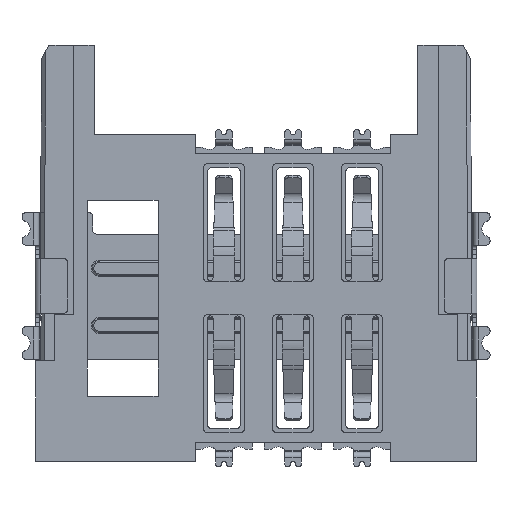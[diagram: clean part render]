
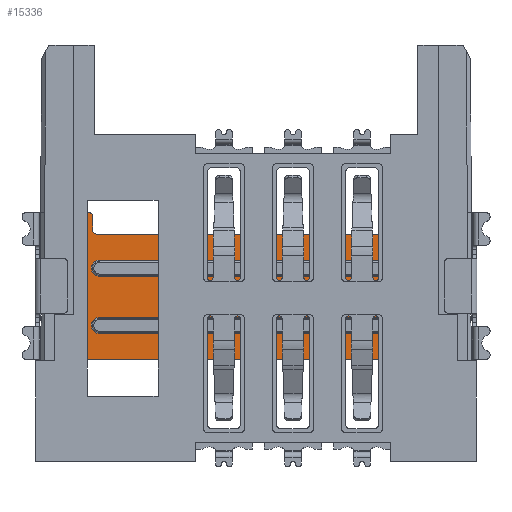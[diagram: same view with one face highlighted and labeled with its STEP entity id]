
A CAD part, front view. The second image highlights one B-rep face of the part: STEP entity #15336.
In plain terms, the highlighted planar face has unit normal (0, -1, 0).
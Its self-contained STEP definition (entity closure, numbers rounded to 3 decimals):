
#2885=DIRECTION('',(0.,0.,-1.));
#2886=VECTOR('',#2885,5.4);
#2887=CARTESIAN_POINT('',(0.5,1.75,-6.15));
#2888=LINE('',#2887,#2886);
#2917=CARTESIAN_POINT('',(13.85,1.75,-8.2));
#2918=DIRECTION('',(0.,1.,0.));
#2919=DIRECTION('',(0.,0.,1.));
#2920=AXIS2_PLACEMENT_3D('',#2917,#2918,#2919);
#2922=CARTESIAN_POINT('',(2.35,1.75,-8.2));
#2923=DIRECTION('',(0.,1.,0.));
#2924=DIRECTION('',(0.,0.,-1.));
#2925=AXIS2_PLACEMENT_3D('',#2922,#2923,#2924);
#2927=CARTESIAN_POINT('',(13.85,1.75,-10.3));
#2928=DIRECTION('',(0.,1.,0.));
#2929=DIRECTION('',(0.,0.,1.));
#2930=AXIS2_PLACEMENT_3D('',#2927,#2928,#2929);
#2932=CARTESIAN_POINT('',(2.35,1.75,-10.3));
#2933=DIRECTION('',(0.,1.,0.));
#2934=DIRECTION('',(0.,0.,-1.));
#2935=AXIS2_PLACEMENT_3D('',#2932,#2933,#2934);
#2937=DIRECTION('',(1.,0.,0.));
#2938=VECTOR('',#2937,15.2);
#2939=CARTESIAN_POINT('',(0.5,1.75,-11.55));
#2940=LINE('',#2939,#2938);
#2941=DIRECTION('',(-1.,0.,0.));
#2942=VECTOR('',#2941,1.45);
#2943=CARTESIAN_POINT('',(1.95,1.75,-6.15));
#2944=LINE('',#2943,#2942);
#2945=CARTESIAN_POINT('',(1.95,1.75,-6.3));
#2946=DIRECTION('',(0.,-1.,0.));
#2947=DIRECTION('',(1.,0.,0.));
#2948=AXIS2_PLACEMENT_3D('',#2945,#2946,#2947);
#2950=CARTESIAN_POINT('',(2.25,1.75,-6.8));
#2951=DIRECTION('',(0.,1.,0.));
#2952=DIRECTION('',(0.,0.,-1.));
#2953=AXIS2_PLACEMENT_3D('',#2950,#2951,#2952);
#2955=CARTESIAN_POINT('',(13.95,1.75,-6.8));
#2956=DIRECTION('',(0.,1.,0.));
#2957=DIRECTION('',(1.,0.,0.));
#2958=AXIS2_PLACEMENT_3D('',#2955,#2956,#2957);
#2960=CARTESIAN_POINT('',(14.25,1.75,-6.3));
#2961=DIRECTION('',(0.,-1.,0.));
#2962=DIRECTION('',(0.,0.,1.));
#2963=AXIS2_PLACEMENT_3D('',#2960,#2961,#2962);
#2965=DIRECTION('',(-1.,0.,0.));
#2966=VECTOR('',#2965,1.45);
#2967=CARTESIAN_POINT('',(15.7,1.75,-6.15));
#2968=LINE('',#2967,#2966);
#3043=DIRECTION('',(1.,0.,0.));
#3044=VECTOR('',#3043,11.5);
#3045=CARTESIAN_POINT('',(2.35,1.75,-8.5));
#3046=LINE('',#3045,#3044);
#3085=DIRECTION('',(-1.,0.,0.));
#3086=VECTOR('',#3085,11.5);
#3087=CARTESIAN_POINT('',(13.85,1.75,-7.9));
#3088=LINE('',#3087,#3086);
#3132=DIRECTION('',(1.,0.,0.));
#3133=VECTOR('',#3132,11.5);
#3134=CARTESIAN_POINT('',(2.35,1.75,-10.6));
#3135=LINE('',#3134,#3133);
#3169=DIRECTION('',(-1.,0.,0.));
#3170=VECTOR('',#3169,11.5);
#3171=CARTESIAN_POINT('',(13.85,1.75,-10.));
#3172=LINE('',#3171,#3170);
#3173=DIRECTION('',(0.,0.,-1.));
#3174=VECTOR('',#3173,5.4);
#3175=CARTESIAN_POINT('',(15.7,1.75,-6.15));
#3176=LINE('',#3175,#3174);
#4107=DIRECTION('',(0.,0.,-1.));
#4108=VECTOR('',#4107,0.5);
#4109=CARTESIAN_POINT('',(14.1,1.75,-6.3));
#4110=LINE('',#4109,#4108);
#4123=DIRECTION('',(-1.,0.,0.));
#4124=VECTOR('',#4123,11.7);
#4125=CARTESIAN_POINT('',(13.95,1.75,-6.95));
#4126=LINE('',#4125,#4124);
#4143=DIRECTION('',(0.,0.,1.));
#4144=VECTOR('',#4143,0.5);
#4145=CARTESIAN_POINT('',(2.1,1.75,-6.8));
#4146=LINE('',#4145,#4144);
#10662=CARTESIAN_POINT('',(14.25,1.75,-6.15));
#10664=VERTEX_POINT('',#10662);
#10693=CARTESIAN_POINT('',(1.95,1.75,-6.15));
#10694=VERTEX_POINT('',#10693);
#10701=CARTESIAN_POINT('',(14.1,1.75,-6.3));
#10702=VERTEX_POINT('',#10701);
#10719=CARTESIAN_POINT('',(2.1,1.75,-6.3));
#10720=VERTEX_POINT('',#10719);
#10721=CARTESIAN_POINT('',(2.1,1.75,-6.8));
#10722=VERTEX_POINT('',#10721);
#10723=CARTESIAN_POINT('',(2.25,1.75,-6.95));
#10724=VERTEX_POINT('',#10723);
#10725=CARTESIAN_POINT('',(13.95,1.75,-6.95));
#10726=VERTEX_POINT('',#10725);
#10727=CARTESIAN_POINT('',(14.1,1.75,-6.8));
#10728=VERTEX_POINT('',#10727);
#10731=CARTESIAN_POINT('',(13.85,1.75,-7.9));
#10732=CARTESIAN_POINT('',(13.85,1.75,-8.5));
#10733=VERTEX_POINT('',#10731);
#10734=VERTEX_POINT('',#10732);
#10735=CARTESIAN_POINT('',(2.35,1.75,-7.9));
#10736=VERTEX_POINT('',#10735);
#10737=CARTESIAN_POINT('',(2.35,1.75,-8.5));
#10738=VERTEX_POINT('',#10737);
#10739=CARTESIAN_POINT('',(13.85,1.75,-10.));
#10740=CARTESIAN_POINT('',(13.85,1.75,-10.6));
#10741=VERTEX_POINT('',#10739);
#10742=VERTEX_POINT('',#10740);
#10743=CARTESIAN_POINT('',(2.35,1.75,-10.));
#10744=VERTEX_POINT('',#10743);
#10745=CARTESIAN_POINT('',(2.35,1.75,-10.6));
#10746=VERTEX_POINT('',#10745);
#11147=CARTESIAN_POINT('',(15.7,1.75,-6.15));
#11148=CARTESIAN_POINT('',(15.7,1.75,-11.55));
#11149=VERTEX_POINT('',#11147);
#11150=VERTEX_POINT('',#11148);
#11156=CARTESIAN_POINT('',(0.5,1.75,-11.55));
#11158=VERTEX_POINT('',#11156);
#11160=CARTESIAN_POINT('',(0.5,1.75,-6.15));
#11162=VERTEX_POINT('',#11160);
#15286=CARTESIAN_POINT('',(8.1,1.75,-8.85));
#15287=DIRECTION('',(0.,1.,0.));
#15288=DIRECTION('',(1.,0.,0.));
#15289=AXIS2_PLACEMENT_3D('',#15286,#15287,#15288);
#15290=PLANE('',#15289);
#15292=ORIENTED_EDGE('',*,*,#15291,.T.);
#15294=ORIENTED_EDGE('',*,*,#15293,.F.);
#15295=ORIENTED_EDGE('',*,*,#15270,.F.);
#15297=ORIENTED_EDGE('',*,*,#15296,.F.);
#15299=ORIENTED_EDGE('',*,*,#15298,.F.);
#15301=ORIENTED_EDGE('',*,*,#15300,.F.);
#15303=ORIENTED_EDGE('',*,*,#15302,.F.);
#15305=ORIENTED_EDGE('',*,*,#15304,.F.);
#15307=ORIENTED_EDGE('',*,*,#15306,.F.);
#15309=ORIENTED_EDGE('',*,*,#15308,.F.);
#15311=ORIENTED_EDGE('',*,*,#15310,.F.);
#15313=ORIENTED_EDGE('',*,*,#15312,.F.);
#15314=EDGE_LOOP('',(#15292,#15294,#15295,#15297,#15299,#15301,#15303,#15305,
#15307,#15309,#15311,#15313));
#15315=FACE_OUTER_BOUND('',#15314,.F.);
#15317=ORIENTED_EDGE('',*,*,#15316,.F.);
#15319=ORIENTED_EDGE('',*,*,#15318,.T.);
#15321=ORIENTED_EDGE('',*,*,#15320,.F.);
#15323=ORIENTED_EDGE('',*,*,#15322,.T.);
#15324=EDGE_LOOP('',(#15317,#15319,#15321,#15323));
#15325=FACE_BOUND('',#15324,.F.);
#15327=ORIENTED_EDGE('',*,*,#15326,.F.);
#15329=ORIENTED_EDGE('',*,*,#15328,.T.);
#15331=ORIENTED_EDGE('',*,*,#15330,.F.);
#15333=ORIENTED_EDGE('',*,*,#15332,.T.);
#15334=EDGE_LOOP('',(#15327,#15329,#15331,#15333));
#15335=FACE_BOUND('',#15334,.F.);
#2921=CIRCLE('',#2920,0.3);
#2926=CIRCLE('',#2925,0.3);
#2931=CIRCLE('',#2930,0.3);
#2936=CIRCLE('',#2935,0.3);
#2949=CIRCLE('',#2948,0.15);
#2954=CIRCLE('',#2953,0.15);
#2959=CIRCLE('',#2958,0.15);
#2964=CIRCLE('',#2963,0.15);
#15270=EDGE_CURVE('',#11162,#11158,#2888,.T.);
#15291=EDGE_CURVE('',#11149,#11150,#3176,.T.);
#15293=EDGE_CURVE('',#11158,#11150,#2940,.T.);
#15296=EDGE_CURVE('',#10694,#11162,#2944,.T.);
#15298=EDGE_CURVE('',#10720,#10694,#2949,.T.);
#15300=EDGE_CURVE('',#10722,#10720,#4146,.T.);
#15302=EDGE_CURVE('',#10724,#10722,#2954,.T.);
#15304=EDGE_CURVE('',#10726,#10724,#4126,.T.);
#15306=EDGE_CURVE('',#10728,#10726,#2959,.T.);
#15308=EDGE_CURVE('',#10702,#10728,#4110,.T.);
#15310=EDGE_CURVE('',#10664,#10702,#2964,.T.);
#15312=EDGE_CURVE('',#11149,#10664,#2968,.T.);
#15316=EDGE_CURVE('',#10733,#10734,#2921,.T.);
#15318=EDGE_CURVE('',#10733,#10736,#3088,.T.);
#15320=EDGE_CURVE('',#10738,#10736,#2926,.T.);
#15322=EDGE_CURVE('',#10738,#10734,#3046,.T.);
#15326=EDGE_CURVE('',#10741,#10742,#2931,.T.);
#15328=EDGE_CURVE('',#10741,#10744,#3172,.T.);
#15330=EDGE_CURVE('',#10746,#10744,#2936,.T.);
#15332=EDGE_CURVE('',#10746,#10742,#3135,.T.);
#15336=ADVANCED_FACE('',(#15315,#15325,#15335),#15290,.F.);
